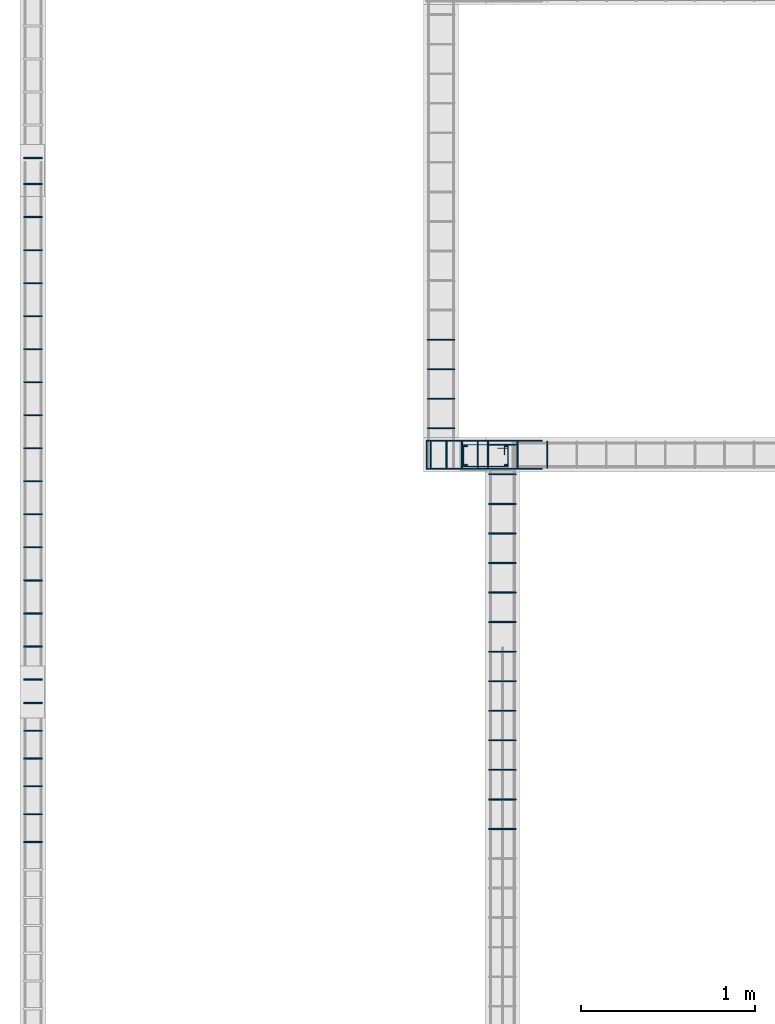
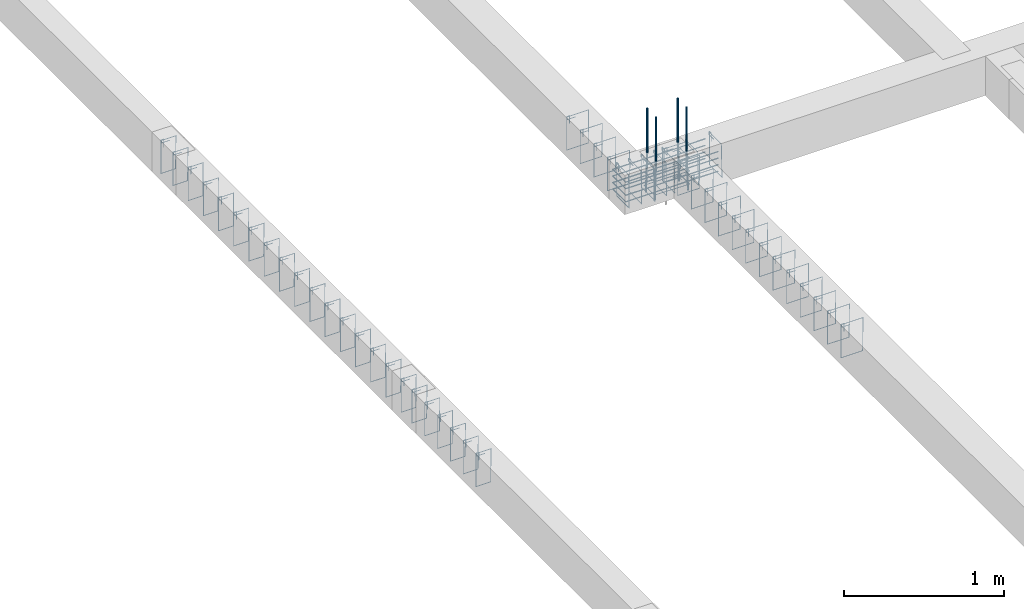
# One storey, part 25 of 150: 59 reinforcing bars.
"""IFC4 building model written with IfcOpenShell, lengths in centimetres."""

from ifc_helpers import new_model, entity, si_unit, derived_unit, frame, origin_with_axes, place, context, project, spatial, source, transform, mapped, element, save


model = new_model("IFC4")

# Units and contexts
model_context = context("Model", 3, precision=1e-05, world=origin_with_axes(), identifier="Body")
ifc_project = project(units=[si_unit("LENGTHUNIT", "METRE", prefix="CENTI"), si_unit("VOLUMEUNIT", "CUBIC_METRE"), si_unit("AREAUNIT", "SQUARE_METRE"), si_unit("POWERUNIT", "WATT"), si_unit("LUMINOUSFLUXUNIT", "LUMEN"), si_unit("ELECTRICCURRENTUNIT", "AMPERE"), si_unit("PRESSUREUNIT", "PASCAL", prefix="KILO"), si_unit("MASSUNIT", "GRAM", prefix="KILO"), si_unit("PLANEANGLEUNIT", "RADIAN"), derived_unit("VOLUMETRICFLOWRATEUNIT", [(si_unit("LENGTHUNIT", "METRE"), 3), (si_unit("TIMEUNIT", "SECOND"), -1)])], contexts=[model_context])

# Site, building, storey
site_placement = place(None, frame((-4000.0, 0.0, 0.0), z_axis=(0.0, 0.0, 1.0), x_axis=(1.0, 0.0, 0.0)))
site = spatial("IfcSite", under=ifc_project, at=site_placement, Name="PADRÃO")
building_placement = place(site_placement, frame((0.0, 0.0, -14.0)))
building = spatial("IfcBuilding", under=site, at=building_placement, Name="CRECHE PRÉ-ESCOLA TIPO 2")
placement = place(building_placement, origin_with_axes())
storey_placement = place(placement, frame((0.0, 0.0, 30.0), z_axis=(0.0, 0.0, 1.0), x_axis=(1.0, 0.0, 0.0)))
storey = spatial("IfcBuildingStorey", under=building, at=storey_placement, Name="VIGA BALDRAME", CompositionType="ELEMENT", Elevation=16.0)

# Reinforcing bars
shared_shape_1 = source(origin_with_axes(), model_context, "Body", "AdvancedSweptSolid", [
    entity("IfcSweptDiskSolid", entity("IfcCompositeCurve", [entity("IfcCompositeCurveSegment", "CONTINUOUS", True, entity("IfcPolyline", [entity("IfcCartesianPoint", [4.25, 21.75, 0.0]), entity("IfcCartesianPoint", [4.25, 27.75, 0.0])])), entity("IfcCompositeCurveSegment", "CONTINUOUS", True, entity("IfcPolyline", [entity("IfcCartesianPoint", [4.25, 27.75, 0.0]), entity("IfcCartesianPoint", [2.25, 27.75, 0.0])])), entity("IfcCompositeCurveSegment", "CONTINUOUS", True, entity("IfcPolyline", [entity("IfcCartesianPoint", [2.25, 27.75, 0.0]), entity("IfcCartesianPoint", [2.25, 2.25, 0.0])])), entity("IfcCompositeCurveSegment", "CONTINUOUS", True, entity("IfcPolyline", [entity("IfcCartesianPoint", [2.25, 2.25, 0.0]), entity("IfcCartesianPoint", [14.75, 2.25, 0.0])])), entity("IfcCompositeCurveSegment", "CONTINUOUS", True, entity("IfcPolyline", [entity("IfcCartesianPoint", [14.75, 2.25, 0.0]), entity("IfcCartesianPoint", [14.75, 27.75, -0.5])])), entity("IfcCompositeCurveSegment", "CONTINUOUS", True, entity("IfcPolyline", [entity("IfcCartesianPoint", [14.75, 27.75, -0.5]), entity("IfcCartesianPoint", [2.25, 27.75, -0.5])])), entity("IfcCompositeCurveSegment", "CONTINUOUS", True, entity("IfcPolyline", [entity("IfcCartesianPoint", [2.25, 27.75, -0.5]), entity("IfcCartesianPoint", [2.25, 25.75, -0.5])])), entity("IfcCompositeCurveSegment", "CONTINUOUS", True, entity("IfcPolyline", [entity("IfcCartesianPoint", [2.25, 25.75, -0.5]), entity("IfcCartesianPoint", [8.25, 25.75, -0.5])]))], False), 0.25),
])
for number, where, z_axis, x_axis, name in (
    (1, (254.5, 1039.0, -5.0), (0.0, 0.0, 1.0), (0.0, -1.0, 0.0), "P116 - Estribo"),
    (2, (254.5, 1039.0, -15.0), (0.0, 0.0, 1.0), (0.0, -1.0, 0.0), "P116 - Estribo"),
    (3, (254.5, 1039.0, -25.0), (0.0, 0.0, 1.0), (0.0, -1.0, 0.0), "P116 - Estribo"),
):
    element("IfcReinforcingBar", number, at=place(storey_placement, frame(where, z_axis=z_axis, x_axis=x_axis)), inside=storey, Name=name, BarLength=0.0, CrossSectionArea=1.9634954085e-05, NominalDiameter=0.5, PredefinedType="MAIN", context=model_context, shape_type="MappedRepresentation", body=[
        mapped(shared_shape_1, transform((0.0, 0.0, 0.0), scale=1.0)),
    ])
shared_shape_2 = source(origin_with_axes(), model_context, "Body", "AdvancedSweptSolid", [
    entity("IfcSweptDiskSolid", entity("IfcCompositeCurve", [entity("IfcCompositeCurveSegment", "CONTINUOUS", True, entity("IfcPolyline", [entity("IfcCartesianPoint", [2.0, -6.0, 0.0]), entity("IfcCartesianPoint", [2.0, 0.0, 0.0])])), entity("IfcCompositeCurveSegment", "CONTINUOUS", True, entity("IfcPolyline", [entity("IfcCartesianPoint", [2.0, 0.0, 0.0]), entity("IfcCartesianPoint", [0.0, 0.0, 0.0])])), entity("IfcCompositeCurveSegment", "CONTINUOUS", True, entity("IfcPolyline", [entity("IfcCartesianPoint", [0.0, 0.0, 0.0]), entity("IfcCartesianPoint", [0.0, -25.5, 0.0])])), entity("IfcCompositeCurveSegment", "CONTINUOUS", True, entity("IfcPolyline", [entity("IfcCartesianPoint", [0.0, -25.5, 0.0]), entity("IfcCartesianPoint", [15.5, -25.5, 0.0])])), entity("IfcCompositeCurveSegment", "CONTINUOUS", True, entity("IfcPolyline", [entity("IfcCartesianPoint", [15.5, -25.5, 0.0]), entity("IfcCartesianPoint", [15.5, 0.0, 0.5])])), entity("IfcCompositeCurveSegment", "CONTINUOUS", True, entity("IfcPolyline", [entity("IfcCartesianPoint", [15.5, 0.0, 0.5]), entity("IfcCartesianPoint", [0.0, 0.0, 0.5])])), entity("IfcCompositeCurveSegment", "CONTINUOUS", True, entity("IfcPolyline", [entity("IfcCartesianPoint", [0.0, 0.0, 0.5]), entity("IfcCartesianPoint", [0.0, -2.0, 0.5])])), entity("IfcCompositeCurveSegment", "CONTINUOUS", True, entity("IfcPolyline", [entity("IfcCartesianPoint", [0.0, -2.0, 0.5]), entity("IfcCartesianPoint", [6.0, -2.0, 0.5])]))], False), 0.25),
])
for number, where, z_axis, x_axis, name in (
    (4, (235.94, 1097.5, -2.25), (0.0, -1.0, 0.0), (1.0, 0.0, 0.0), "V161 - Estribo"),
    (5, (235.94, 1080.5, -2.25), (0.0, -1.0, 0.0), (1.0, 0.0, 0.0), "V161 - Estribo"),
    (6, (235.94, 1063.5, -2.25), (0.0, -1.0, 0.0), (1.0, 0.0, 0.0), "V161 - Estribo"),
    (7, (235.94, 1046.5, -2.25), (0.0, -1.0, 0.0), (1.0, 0.0, 0.0), "V161 - Estribo"),
):
    element("IfcReinforcingBar", number, at=place(storey_placement, frame(where, z_axis=z_axis, x_axis=x_axis)), inside=storey, Name=name, BarLength=0.0, CrossSectionArea=1.9634954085e-05, NominalDiameter=0.5, PredefinedType="MAIN", context=model_context, shape_type="MappedRepresentation", body=[
        mapped(shared_shape_2, transform((0.0, 0.0, 0.0), scale=1.0)),
    ])
shared_shape_3 = source(origin_with_axes(), model_context, "Body", "AdvancedSweptSolid", [
    entity("IfcSweptDiskSolid", entity("IfcCompositeCurve", [entity("IfcCompositeCurveSegment", "CONTINUOUS", True, entity("IfcPolyline", [entity("IfcCartesianPoint", [2.0, -6.0, 0.0]), entity("IfcCartesianPoint", [2.0, 0.0, 0.0])])), entity("IfcCompositeCurveSegment", "CONTINUOUS", True, entity("IfcPolyline", [entity("IfcCartesianPoint", [2.0, 0.0, 0.0]), entity("IfcCartesianPoint", [0.0, 0.0, 0.0])])), entity("IfcCompositeCurveSegment", "CONTINUOUS", True, entity("IfcPolyline", [entity("IfcCartesianPoint", [0.0, 0.0, 0.0]), entity("IfcCartesianPoint", [0.0, -25.5, 0.0])])), entity("IfcCompositeCurveSegment", "CONTINUOUS", True, entity("IfcPolyline", [entity("IfcCartesianPoint", [0.0, -25.5, 0.0]), entity("IfcCartesianPoint", [15.5, -25.5, 0.0])])), entity("IfcCompositeCurveSegment", "CONTINUOUS", True, entity("IfcPolyline", [entity("IfcCartesianPoint", [15.5, -25.5, 0.0]), entity("IfcCartesianPoint", [15.5, 0.0, 0.5])])), entity("IfcCompositeCurveSegment", "CONTINUOUS", True, entity("IfcPolyline", [entity("IfcCartesianPoint", [15.5, 0.0, 0.5]), entity("IfcCartesianPoint", [0.0, 0.0, 0.5])])), entity("IfcCompositeCurveSegment", "CONTINUOUS", True, entity("IfcPolyline", [entity("IfcCartesianPoint", [0.0, 0.0, 0.5]), entity("IfcCartesianPoint", [0.0, -2.0, 0.5])])), entity("IfcCompositeCurveSegment", "CONTINUOUS", True, entity("IfcPolyline", [entity("IfcCartesianPoint", [0.0, -2.0, 0.5]), entity("IfcCartesianPoint", [6.0, -2.0, 0.5])]))], False), 0.25),
])
for number, where, z_axis, x_axis, name in (
    (8, (271.25, 816.0, -2.25), (0.0, -1.0, 0.0), (1.0, 0.0, 0.0), "V160 - Estribo"),
    (9, (271.25, 833.0, -2.25), (0.0, -1.0, 0.0), (1.0, 0.0, 0.0), "V160 - Estribo"),
    (10, (271.25, 850.0, -2.25), (0.0, -1.0, 0.0), (1.0, 0.0, 0.0), "V160 - Estribo"),
    (11, (271.25, 867.0, -2.25), (0.0, -1.0, 0.0), (1.0, 0.0, 0.0), "V160 - Estribo"),
    (12, (271.25, 884.0, -2.25), (0.0, -1.0, 0.0), (1.0, 0.0, 0.0), "V160 - Estribo"),
    (13, (271.25, 901.0, -2.25), (0.0, -1.0, 0.0), (1.0, 0.0, 0.0), "V160 - Estribo"),
    (14, (271.25, 918.0, -2.25), (0.0, -1.0, 0.0), (1.0, 0.0, 0.0), "V160 - Estribo"),
    (15, (271.25, 935.0, -2.25), (0.0, -1.0, 0.0), (1.0, 0.0, 0.0), "V160 - Estribo"),
    (16, (271.25, 952.0, -2.25), (0.0, -1.0, 0.0), (1.0, 0.0, 0.0), "V160 - Estribo"),
    (17, (271.25, 969.0, -2.25), (0.0, -1.0, 0.0), (1.0, 0.0, 0.0), "V160 - Estribo"),
    (18, (271.25, 986.0, -2.25), (0.0, -1.0, 0.0), (1.0, 0.0, 0.0), "V160 - Estribo"),
    (19, (271.25, 1003.0, -2.25), (0.0, -1.0, 0.0), (1.0, 0.0, 0.0), "V160 - Estribo"),
    (20, (271.25, 1020.0, -2.25), (0.0, -1.0, 0.0), (1.0, 0.0, 0.0), "V160 - Estribo"),
    (21, (271.25, 1037.0, -2.25), (0.0, -1.0, 0.0), (1.0, 0.0, 0.0), "V160 - Estribo"),
):
    element("IfcReinforcingBar", number, at=place(storey_placement, frame(where, z_axis=z_axis, x_axis=x_axis)), inside=storey, Name=name, BarLength=0.0, CrossSectionArea=1.9634954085e-05, NominalDiameter=0.5, PredefinedType="MAIN", context=model_context, shape_type="MappedRepresentation", body=[
        mapped(shared_shape_3, transform((0.0, 0.0, 0.0), scale=1.0)),
    ])
shared_shape_4 = source(origin_with_axes(), model_context, "Body", "AdvancedSweptSolid", [
    entity("IfcSweptDiskSolid", entity("IfcCompositeCurve", [entity("IfcCompositeCurveSegment", "CONTINUOUS", True, entity("IfcPolyline", [entity("IfcCartesianPoint", [2.0, -6.0, 0.0]), entity("IfcCartesianPoint", [2.0, 0.0, 0.0])])), entity("IfcCompositeCurveSegment", "CONTINUOUS", True, entity("IfcPolyline", [entity("IfcCartesianPoint", [2.0, 0.0, 0.0]), entity("IfcCartesianPoint", [0.0, 0.0, 0.0])])), entity("IfcCompositeCurveSegment", "CONTINUOUS", True, entity("IfcPolyline", [entity("IfcCartesianPoint", [0.0, 0.0, 0.0]), entity("IfcCartesianPoint", [0.0, -25.5, 0.0])])), entity("IfcCompositeCurveSegment", "CONTINUOUS", True, entity("IfcPolyline", [entity("IfcCartesianPoint", [0.0, -25.5, 0.0]), entity("IfcCartesianPoint", [10.5, -25.5, 0.0])])), entity("IfcCompositeCurveSegment", "CONTINUOUS", True, entity("IfcPolyline", [entity("IfcCartesianPoint", [10.5, -25.5, 0.0]), entity("IfcCartesianPoint", [10.5, 0.0, 0.5])])), entity("IfcCompositeCurveSegment", "CONTINUOUS", True, entity("IfcPolyline", [entity("IfcCartesianPoint", [10.5, 0.0, 0.5]), entity("IfcCartesianPoint", [0.0, 0.0, 0.5])])), entity("IfcCompositeCurveSegment", "CONTINUOUS", True, entity("IfcPolyline", [entity("IfcCartesianPoint", [0.0, 0.0, 0.5]), entity("IfcCartesianPoint", [0.0, -2.0, 0.5])])), entity("IfcCompositeCurveSegment", "CONTINUOUS", True, entity("IfcPolyline", [entity("IfcCartesianPoint", [0.0, -2.0, 0.5]), entity("IfcCartesianPoint", [6.0, -2.0, 0.5])]))], False), 0.25),
])
for number, where, z_axis, x_axis, name in (
    (22, (3.75, 888.5, -2.25), (0.0, -1.0, 0.0), (1.0, 0.0, 0.0), "V159 - Estribo"),
    (23, (3.75, 872.5, -2.25), (0.0, -1.0, 0.0), (1.0, 0.0, 0.0), "V159 - Estribo"),
    (24, (3.75, 856.5, -2.25), (0.0, -1.0, 0.0), (1.0, 0.0, 0.0), "V159 - Estribo"),
    (25, (3.75, 840.5, -2.25), (0.0, -1.0, 0.0), (1.0, 0.0, 0.0), "V159 - Estribo"),
    (26, (3.75, 824.5, -2.25), (0.0, -1.0, 0.0), (1.0, 0.0, 0.0), "V159 - Estribo"),
    (27, (3.75, 808.5, -2.25), (0.0, -1.0, 0.0), (1.0, 0.0, 0.0), "V159 - Estribo"),
):
    element("IfcReinforcingBar", number, at=place(storey_placement, frame(where, z_axis=z_axis, x_axis=x_axis)), inside=storey, Name=name, BarLength=0.0, CrossSectionArea=1.9634954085e-05, NominalDiameter=0.5, PredefinedType="MAIN", context=model_context, shape_type="MappedRepresentation", body=[
        mapped(shared_shape_4, transform((0.0, 0.0, 0.0), scale=1.0)),
    ])
shared_shape_5 = source(origin_with_axes(), model_context, "Body", "AdvancedSweptSolid", [
    entity("IfcSweptDiskSolid", entity("IfcCompositeCurve", [entity("IfcCompositeCurveSegment", "CONTINUOUS", True, entity("IfcPolyline", [entity("IfcCartesianPoint", [2.0, -6.0, 0.0]), entity("IfcCartesianPoint", [2.0, 0.0, 0.0])])), entity("IfcCompositeCurveSegment", "CONTINUOUS", True, entity("IfcPolyline", [entity("IfcCartesianPoint", [2.0, 0.0, 0.0]), entity("IfcCartesianPoint", [0.0, 0.0, 0.0])])), entity("IfcCompositeCurveSegment", "CONTINUOUS", True, entity("IfcPolyline", [entity("IfcCartesianPoint", [0.0, 0.0, 0.0]), entity("IfcCartesianPoint", [0.0, -25.5, 0.0])])), entity("IfcCompositeCurveSegment", "CONTINUOUS", True, entity("IfcPolyline", [entity("IfcCartesianPoint", [0.0, -25.5, 0.0]), entity("IfcCartesianPoint", [10.5, -25.5, 0.0])])), entity("IfcCompositeCurveSegment", "CONTINUOUS", True, entity("IfcPolyline", [entity("IfcCartesianPoint", [10.5, -25.5, 0.0]), entity("IfcCartesianPoint", [10.5, 0.0, 0.5])])), entity("IfcCompositeCurveSegment", "CONTINUOUS", True, entity("IfcPolyline", [entity("IfcCartesianPoint", [10.5, 0.0, 0.5]), entity("IfcCartesianPoint", [0.0, 0.0, 0.5])])), entity("IfcCompositeCurveSegment", "CONTINUOUS", True, entity("IfcPolyline", [entity("IfcCartesianPoint", [0.0, 0.0, 0.5]), entity("IfcCartesianPoint", [0.0, -2.0, 0.5])])), entity("IfcCompositeCurveSegment", "CONTINUOUS", True, entity("IfcPolyline", [entity("IfcCartesianPoint", [0.0, -2.0, 0.5]), entity("IfcCartesianPoint", [6.0, -2.0, 0.5])]))], False), 0.25),
])
for number, where, z_axis, x_axis, name in (
    (28, (3.75, 997.0, -2.25), (0.0, -1.0, 0.0), (1.0, 0.0, 0.0), "V159 - Estribo"),
    (29, (3.75, 978.0, -2.25), (0.0, -1.0, 0.0), (1.0, 0.0, 0.0), "V159 - Estribo"),
    (30, (3.75, 959.0, -2.25), (0.0, -1.0, 0.0), (1.0, 0.0, 0.0), "V159 - Estribo"),
    (31, (3.75, 940.0, -2.25), (0.0, -1.0, 0.0), (1.0, 0.0, 0.0), "V159 - Estribo"),
    (32, (3.75, 921.0, -2.25), (0.0, -1.0, 0.0), (1.0, 0.0, 0.0), "V159 - Estribo"),
    (33, (3.75, 902.0, -2.25), (0.0, -1.0, 0.0), (1.0, 0.0, 0.0), "V159 - Estribo"),
    (34, (3.75, 1016.0, -2.25), (0.0, -1.0, 0.0), (1.0, 0.0, 0.0), "V159 - Estribo"),
    (35, (3.75, 1035.0, -2.25), (0.0, -1.0, 0.0), (1.0, 0.0, 0.0), "V159 - Estribo"),
    (36, (3.75, 1054.0, -2.25), (0.0, -1.0, 0.0), (1.0, 0.0, 0.0), "V159 - Estribo"),
    (37, (3.75, 1073.0, -2.25), (0.0, -1.0, 0.0), (1.0, 0.0, 0.0), "V159 - Estribo"),
    (38, (3.75, 1092.0, -2.25), (0.0, -1.0, 0.0), (1.0, 0.0, 0.0), "V159 - Estribo"),
    (39, (3.75, 1111.0, -2.25), (0.0, -1.0, 0.0), (1.0, 0.0, 0.0), "V159 - Estribo"),
    (40, (3.75, 1130.0, -2.25), (0.0, -1.0, 0.0), (1.0, 0.0, 0.0), "V159 - Estribo"),
    (41, (3.75, 1149.0, -2.25), (0.0, -1.0, 0.0), (1.0, 0.0, 0.0), "V159 - Estribo"),
    (42, (3.75, 1168.0, -2.25), (0.0, -1.0, 0.0), (1.0, 0.0, 0.0), "V159 - Estribo"),
    (43, (3.75, 1187.0, -2.25), (0.0, -1.0, 0.0), (1.0, 0.0, 0.0), "V159 - Estribo"),
):
    element("IfcReinforcingBar", number, at=place(storey_placement, frame(where, z_axis=z_axis, x_axis=x_axis)), inside=storey, Name=name, BarLength=0.0, CrossSectionArea=1.9634954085e-05, NominalDiameter=0.5, PredefinedType="MAIN", context=model_context, shape_type="MappedRepresentation", body=[
        mapped(shared_shape_5, transform((0.0, 0.0, 0.0), scale=1.0)),
    ])
shared_shape_6 = source(origin_with_axes(), model_context, "Body", "AdvancedSweptSolid", [
    entity("IfcSweptDiskSolid", entity("IfcCompositeCurve", [entity("IfcCompositeCurveSegment", "CONTINUOUS", True, entity("IfcPolyline", [entity("IfcCartesianPoint", [2.0, -6.0, 0.0]), entity("IfcCartesianPoint", [2.0, 0.0, 0.0])])), entity("IfcCompositeCurveSegment", "CONTINUOUS", True, entity("IfcPolyline", [entity("IfcCartesianPoint", [2.0, 0.0, 0.0]), entity("IfcCartesianPoint", [0.0, 0.0, 0.0])])), entity("IfcCompositeCurveSegment", "CONTINUOUS", True, entity("IfcPolyline", [entity("IfcCartesianPoint", [0.0, 0.0, 0.0]), entity("IfcCartesianPoint", [0.0, -25.5, 0.0])])), entity("IfcCompositeCurveSegment", "CONTINUOUS", True, entity("IfcPolyline", [entity("IfcCartesianPoint", [0.0, -25.5, 0.0]), entity("IfcCartesianPoint", [10.5, -25.5, 0.0])])), entity("IfcCompositeCurveSegment", "CONTINUOUS", True, entity("IfcPolyline", [entity("IfcCartesianPoint", [10.5, -25.5, 0.0]), entity("IfcCartesianPoint", [10.5, 0.0, 0.5])])), entity("IfcCompositeCurveSegment", "CONTINUOUS", True, entity("IfcPolyline", [entity("IfcCartesianPoint", [10.5, 0.0, 0.5]), entity("IfcCartesianPoint", [0.0, 0.0, 0.5])])), entity("IfcCompositeCurveSegment", "CONTINUOUS", True, entity("IfcPolyline", [entity("IfcCartesianPoint", [0.0, 0.0, 0.5]), entity("IfcCartesianPoint", [0.0, -2.0, 0.5])])), entity("IfcCompositeCurveSegment", "CONTINUOUS", True, entity("IfcPolyline", [entity("IfcCartesianPoint", [0.0, -2.0, 0.5]), entity("IfcCartesianPoint", [6.0, -2.0, 0.5])]))], False), 0.25),
])
reinforcing_bar_1_placement = place(storey_placement, frame((3.75, 1202.0, -2.25), z_axis=(0.0, -1.0, 0.0), x_axis=(1.0, 0.0, 0.0)))
element("IfcReinforcingBar", 44, at=reinforcing_bar_1_placement, inside=storey, Name="V159 - Estribo", BarLength=0.0, CrossSectionArea=1.9634954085e-05, NominalDiameter=0.5, PredefinedType="MAIN", context=model_context, shape_type="MappedRepresentation", body=[
    mapped(shared_shape_6, transform((0.0, 0.0, 0.0), scale=1.0)),
])
shared_shape_7 = source(origin_with_axes(), model_context, "Body", "AdvancedSweptSolid", [
    entity("IfcSweptDiskSolid", entity("IfcCompositeCurve", [entity("IfcCompositeCurveSegment", "CONTINUOUS", True, entity("IfcPolyline", [entity("IfcCartesianPoint", [2.0, -6.0, 0.0]), entity("IfcCartesianPoint", [2.0, 0.0, 0.0])])), entity("IfcCompositeCurveSegment", "CONTINUOUS", True, entity("IfcPolyline", [entity("IfcCartesianPoint", [2.0, 0.0, 0.0]), entity("IfcCartesianPoint", [0.0, 0.0, 0.0])])), entity("IfcCompositeCurveSegment", "CONTINUOUS", True, entity("IfcPolyline", [entity("IfcCartesianPoint", [0.0, 0.0, 0.0]), entity("IfcCartesianPoint", [0.0, -25.5, 0.0])])), entity("IfcCompositeCurveSegment", "CONTINUOUS", True, entity("IfcPolyline", [entity("IfcCartesianPoint", [0.0, -25.5, 0.0]), entity("IfcCartesianPoint", [15.5, -25.5, 0.0])])), entity("IfcCompositeCurveSegment", "CONTINUOUS", True, entity("IfcPolyline", [entity("IfcCartesianPoint", [15.5, -25.5, 0.0]), entity("IfcCartesianPoint", [15.5, 0.0, 0.5])])), entity("IfcCompositeCurveSegment", "CONTINUOUS", True, entity("IfcPolyline", [entity("IfcCartesianPoint", [15.5, 0.0, 0.5]), entity("IfcCartesianPoint", [0.0, 0.0, 0.5])])), entity("IfcCompositeCurveSegment", "CONTINUOUS", True, entity("IfcPolyline", [entity("IfcCartesianPoint", [0.0, 0.0, 0.5]), entity("IfcCartesianPoint", [0.0, -2.0, 0.5])])), entity("IfcCompositeCurveSegment", "CONTINUOUS", True, entity("IfcPolyline", [entity("IfcCartesianPoint", [0.0, -2.0, 0.5]), entity("IfcCartesianPoint", [6.0, -2.0, 0.5])]))], False), 0.25),
])
for number, where, z_axis, x_axis, name in (
    (45, (238.095, 1038.75, -2.25), (-1.0, 0.0, 0.0), (0.0, -1.0, 0.0), "V140 - Estribo"),
    (46, (247.095, 1038.75, -2.25), (-1.0, 0.0, 0.0), (0.0, -1.0, 0.0), "V140 - Estribo"),
    (47, (256.095, 1038.75, -2.25), (-1.0, 0.0, 0.0), (0.0, -1.0, 0.0), "V140 - Estribo"),
    (48, (265.095, 1038.75, -2.25), (-1.0, 0.0, 0.0), (0.0, -1.0, 0.0), "V140 - Estribo"),
):
    element("IfcReinforcingBar", number, at=place(storey_placement, frame(where, z_axis=z_axis, x_axis=x_axis)), inside=storey, Name=name, BarLength=0.0, CrossSectionArea=1.9634954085e-05, NominalDiameter=0.5, PredefinedType="MAIN", context=model_context, shape_type="MappedRepresentation", body=[
        mapped(shared_shape_7, transform((0.0, 0.0, 0.0), scale=1.0)),
    ])
shared_shape_8 = source(origin_with_axes(), model_context, "Body", "AdvancedSweptSolid", [
    entity("IfcSweptDiskSolid", entity("IfcCompositeCurve", [entity("IfcCompositeCurveSegment", "CONTINUOUS", True, entity("IfcPolyline", [entity("IfcCartesianPoint", [2.0, -6.0, 0.0]), entity("IfcCartesianPoint", [2.0, 0.0, 0.0])])), entity("IfcCompositeCurveSegment", "CONTINUOUS", True, entity("IfcPolyline", [entity("IfcCartesianPoint", [2.0, 0.0, 0.0]), entity("IfcCartesianPoint", [0.0, 0.0, 0.0])])), entity("IfcCompositeCurveSegment", "CONTINUOUS", True, entity("IfcPolyline", [entity("IfcCartesianPoint", [0.0, 0.0, 0.0]), entity("IfcCartesianPoint", [0.0, -25.5, 0.0])])), entity("IfcCompositeCurveSegment", "CONTINUOUS", True, entity("IfcPolyline", [entity("IfcCartesianPoint", [0.0, -25.5, 0.0]), entity("IfcCartesianPoint", [15.5, -25.5, 0.0])])), entity("IfcCompositeCurveSegment", "CONTINUOUS", True, entity("IfcPolyline", [entity("IfcCartesianPoint", [15.5, -25.5, 0.0]), entity("IfcCartesianPoint", [15.5, 0.0, 0.5])])), entity("IfcCompositeCurveSegment", "CONTINUOUS", True, entity("IfcPolyline", [entity("IfcCartesianPoint", [15.5, 0.0, 0.5]), entity("IfcCartesianPoint", [0.0, 0.0, 0.5])])), entity("IfcCompositeCurveSegment", "CONTINUOUS", True, entity("IfcPolyline", [entity("IfcCartesianPoint", [0.0, 0.0, 0.5]), entity("IfcCartesianPoint", [0.0, -2.0, 0.5])])), entity("IfcCompositeCurveSegment", "CONTINUOUS", True, entity("IfcPolyline", [entity("IfcCartesianPoint", [0.0, -2.0, 0.5]), entity("IfcCartesianPoint", [6.0, -2.0, 0.5])]))], False), 0.25),
])
for number, where, z_axis, x_axis, name in (
    (49, (271.035, 1038.75, -2.25), (-1.0, 0.0, 0.0), (0.0, -1.0, 0.0), "V140 - Estribo"),
    (50, (288.035, 1038.75, -2.25), (-1.0, 0.0, 0.0), (0.0, -1.0, 0.0), "V140 - Estribo"),
    (51, (305.035, 1038.75, -2.25), (-1.0, 0.0, 0.0), (0.0, -1.0, 0.0), "V140 - Estribo"),
):
    element("IfcReinforcingBar", number, at=place(storey_placement, frame(where, z_axis=z_axis, x_axis=x_axis)), inside=storey, Name=name, BarLength=0.0, CrossSectionArea=1.9634954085e-05, NominalDiameter=0.5, PredefinedType="MAIN", context=model_context, shape_type="MappedRepresentation", body=[
        mapped(shared_shape_8, transform((0.0, 0.0, 0.0), scale=1.0)),
    ])
shared_shape_9 = source(origin_with_axes(), model_context, "Body", "AdvancedSweptSolid", [
    entity("IfcSweptDiskSolid", entity("IfcCompositeCurve", [entity("IfcCompositeCurveSegment", "CONTINUOUS", True, entity("IfcPolyline", [entity("IfcCartesianPoint", [0.0, 0.0, 0.0]), entity("IfcCartesianPoint", [-66.5113828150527, 0.0, 0.0])])), entity("IfcCompositeCurveSegment", "CONTINUOUS", True, entity("IfcPolyline", [entity("IfcCartesianPoint", [-66.5113828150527, 0.0, 0.0]), entity("IfcCartesianPoint", [-66.5113828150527, -16.0, 0.0])])), entity("IfcCompositeCurveSegment", "CONTINUOUS", True, entity("IfcPolyline", [entity("IfcCartesianPoint", [-66.5113828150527, -16.0, 0.0]), entity("IfcCartesianPoint", [0.0, -16.0, 0.0])]))], False), 0.25),
])
for number, where, z_axis, x_axis, name in (
    (52, (301.951382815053, 1039.0, -6.875), (0.0, 0.0, 1.0), (1.0, 0.0, 0.0), "V140 - Grampo"),
    (53, (301.951382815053, 1039.0, -11.875), (0.0, 0.0, 1.0), (1.0, 0.0, 0.0), "V140 - Grampo"),
    (54, (301.951382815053, 1039.0, -16.875), (0.0, 0.0, 1.0), (1.0, 0.0, 0.0), "V140 - Grampo"),
    (55, (301.951382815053, 1039.0, -21.875), (0.0, 0.0, 1.0), (1.0, 0.0, 0.0), "V140 - Grampo"),
):
    element("IfcReinforcingBar", number, at=place(storey_placement, frame(where, z_axis=z_axis, x_axis=x_axis)), inside=storey, Name=name, BarLength=0.0, CrossSectionArea=1.9634954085e-05, NominalDiameter=0.5, PredefinedType="MAIN", context=model_context, shape_type="MappedRepresentation", body=[
        mapped(shared_shape_9, transform((0.0, 0.0, 0.0), scale=1.0)),
    ])
reinforcing_bar_2_placement = place(storey_placement, frame((258.000138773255, 1036.0, 33.3573001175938), z_axis=(0.0, 0.0, 1.0), x_axis=(1.0, 0.0, 0.0)))
element("IfcReinforcingBar", 56, at=reinforcing_bar_2_placement, inside=storey, Name="P116 - Longitudinal", BarLength=0.0, CrossSectionArea=7.853981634e-05, NominalDiameter=1.0, PredefinedType="MAIN", context=model_context, shape_type="AdvancedSweptSolid", body=[
    entity("IfcSweptDiskSolid", entity("IfcCompositeCurve", [entity("IfcCompositeCurveSegment", "CONTINUOUS", True, entity("IfcPolyline", [entity("IfcCartesianPoint", [-0.50013877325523, 0.0, -63.3573001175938]), entity("IfcCartesianPoint", [0.49986122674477, 0.0, -33.3573001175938])])), entity("IfcCompositeCurveSegment", "CONTINUOUS", True, entity("IfcPolyline", [entity("IfcCartesianPoint", [0.49986122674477, 0.0, -33.3573001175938]), entity("IfcCartesianPoint", [0.49986122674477, 0.0, 0.0])]))], False), 0.5),
])
for number, where, z_axis, x_axis, name in (
    (57, (280.999861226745, 1036.0, 33.3573001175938), (0.0, 0.0, 1.0), (1.0, 0.0, 0.0), "P116 - Longitudinal"),
    (58, (280.999861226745, 1025.0, 33.3573001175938), (0.0, 0.0, 1.0), (1.0, 0.0, 0.0), "P116 - Longitudinal"),
):
    element("IfcReinforcingBar", number, at=place(storey_placement, frame(where, z_axis=z_axis, x_axis=x_axis)), inside=storey, Name=name, BarLength=0.0, CrossSectionArea=7.853981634e-05, NominalDiameter=1.0, PredefinedType="MAIN", context=model_context, shape_type="AdvancedSweptSolid", body=[
        entity("IfcSweptDiskSolid", entity("IfcCompositeCurve", [entity("IfcCompositeCurveSegment", "CONTINUOUS", True, entity("IfcPolyline", [entity("IfcCartesianPoint", [0.50013877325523, 0.0, -63.3573001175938]), entity("IfcCartesianPoint", [-0.49986122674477, 0.0, -33.3573001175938])])), entity("IfcCompositeCurveSegment", "CONTINUOUS", True, entity("IfcPolyline", [entity("IfcCartesianPoint", [-0.49986122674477, 0.0, -33.3573001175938]), entity("IfcCartesianPoint", [-0.49986122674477, 0.0, 0.0])]))], False), 0.5),
    ])
reinforcing_bar_3_placement = place(storey_placement, frame((258.000138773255, 1025.0, 33.3573001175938), z_axis=(0.0, 0.0, 1.0), x_axis=(1.0, 0.0, 0.0)))
element("IfcReinforcingBar", 59, at=reinforcing_bar_3_placement, inside=storey, Name="P116 - Longitudinal", BarLength=0.0, CrossSectionArea=7.853981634e-05, NominalDiameter=1.0, PredefinedType="MAIN", context=model_context, shape_type="AdvancedSweptSolid", body=[
    entity("IfcSweptDiskSolid", entity("IfcCompositeCurve", [entity("IfcCompositeCurveSegment", "CONTINUOUS", True, entity("IfcPolyline", [entity("IfcCartesianPoint", [-0.50013877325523, 0.0, -63.3573001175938]), entity("IfcCartesianPoint", [0.49986122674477, 0.0, -33.3573001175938])])), entity("IfcCompositeCurveSegment", "CONTINUOUS", True, entity("IfcPolyline", [entity("IfcCartesianPoint", [0.49986122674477, 0.0, -33.3573001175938]), entity("IfcCartesianPoint", [0.49986122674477, 0.0, 0.0])]))], False), 0.5),
])

save(model, "model.ifc")
